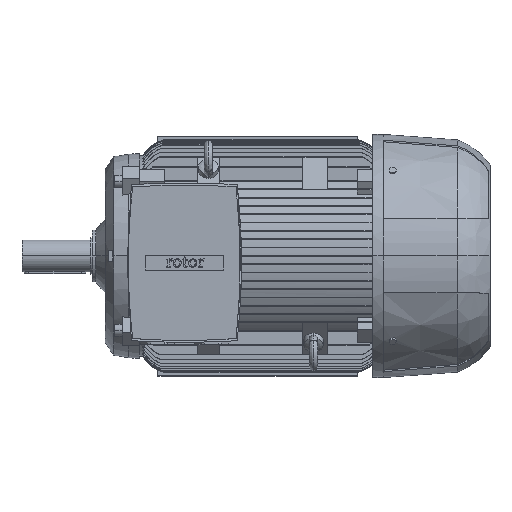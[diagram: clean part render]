
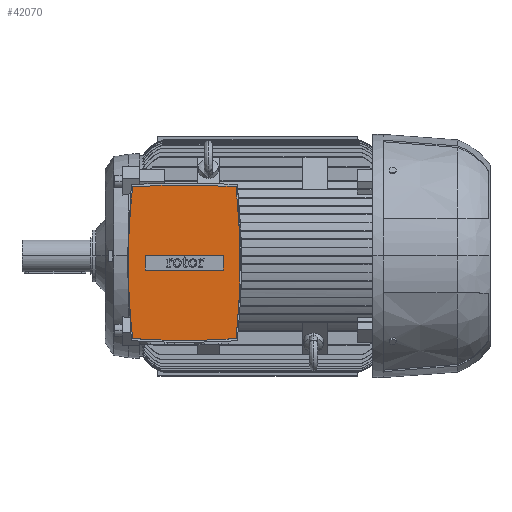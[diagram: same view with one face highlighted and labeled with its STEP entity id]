
A CAD part, top view. The second image highlights one B-rep face of the part: STEP entity #42070.
In plain terms, the highlighted planar face has unit normal (0, 0, 1).
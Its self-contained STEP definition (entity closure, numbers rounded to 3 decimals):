
#1840 = CIRCLE ( 'NONE', #37146, 1439.94 ) ;
#2120 = EDGE_CURVE ( 'NONE', #31482, #6332, #12870, .T. ) ;
#2373 = VECTOR ( 'NONE', #68207, 1000. ) ;
#3578 = VERTEX_POINT ( 'NONE', #37305 ) ;
#6332 = VERTEX_POINT ( 'NONE', #42314 ) ;
#7025 = DIRECTION ( 'NONE',  ( 1., 0., 0. ) ) ;
#7485 = CARTESIAN_POINT ( 'NONE',  ( 12., -14.5, 410. ) ) ;
#7734 = DIRECTION ( 'NONE',  ( 0., 1., 0. ) ) ;
#8825 = CARTESIAN_POINT ( 'NONE',  ( 92., 1266.44, 410. ) ) ;
#9993 = EDGE_CURVE ( 'NONE', #31554, #56876, #10102, .T. ) ;
#10102 = CIRCLE ( 'NONE', #39770, 1439.94 ) ;
#11552 = DIRECTION ( 'NONE',  ( 1., 0., 0. ) ) ;
#11804 = PLANE ( 'NONE',  #63254 ) ;
#12870 = LINE ( 'NONE', #44976, #57485 ) ;
#16106 = AXIS2_PLACEMENT_3D ( 'NONE', #62224, #67043, #73454 ) ;
#19714 = EDGE_CURVE ( 'NONE', #56876, #34600, #42030, .T. ) ;
#20462 = DIRECTION ( 'NONE',  ( -1., 0., 0. ) ) ;
#20941 = EDGE_LOOP ( 'NONE', ( #38026, #24244, #53863, #66125 ) ) ;
#21276 = CARTESIAN_POINT ( 'NONE',  ( -1197.1, -14.5, 410. ) ) ;
#24244 = ORIENTED_EDGE ( 'NONE', *, *, #2120, .T. ) ;
#25658 = ORIENTED_EDGE ( 'NONE', *, *, #19714, .F. ) ;
#26617 = EDGE_CURVE ( 'NONE', #34600, #37023, #42305, .T. ) ;
#27129 = CARTESIAN_POINT ( 'NONE',  ( 92., -29.5, 410. ) ) ;
#27153 = DIRECTION ( 'NONE',  ( 0., 0., -1. ) ) ;
#27425 = DIRECTION ( 'NONE',  ( 0., -1., 0. ) ) ;
#29360 = CARTESIAN_POINT ( 'NONE',  ( 197.904, -169.6, 410. ) ) ;
#29379 = AXIS2_PLACEMENT_3D ( 'NONE', #61352, #43719, #49117 ) ;
#29524 = CIRCLE ( 'NONE', #42823, 1403.6 ) ;
#30192 = DIRECTION ( 'NONE',  ( 0., 0., -1. ) ) ;
#31482 = VERTEX_POINT ( 'NONE', #68468 ) ;
#31554 = VERTEX_POINT ( 'NONE', #29360 ) ;
#34600 = VERTEX_POINT ( 'NONE', #61306 ) ;
#34856 = EDGE_CURVE ( 'NONE', #40173, #31482, #75566, .T. ) ;
#34908 = ORIENTED_EDGE ( 'NONE', *, *, #26617, .F. ) ;
#37023 = VERTEX_POINT ( 'NONE', #50944 ) ;
#37146 = AXIS2_PLACEMENT_3D ( 'NONE', #41663, #30192, #71057 ) ;
#37305 = CARTESIAN_POINT ( 'NONE',  ( 197.904, 140.6, 410. ) ) ;
#38026 = ORIENTED_EDGE ( 'NONE', *, *, #34856, .T. ) ;
#38165 = VERTEX_POINT ( 'NONE', #63732 ) ;
#38168 = CARTESIAN_POINT ( 'NONE',  ( 12., 0.5, 410. ) ) ;
#39770 = AXIS2_PLACEMENT_3D ( 'NONE', #8825, #73042, #20462 ) ;
#40173 = VERTEX_POINT ( 'NONE', #38168 ) ;
#41663 = CARTESIAN_POINT ( 'NONE',  ( 92., -1295.44, 410. ) ) ;
#42030 = CIRCLE ( 'NONE', #29379, 1403.6 ) ;
#42070 = ADVANCED_FACE ( 'NONE', ( #69752, #74321 ), #11804, .T. ) ;
#42305 = CIRCLE ( 'NONE', #16106, 1403.6 ) ;
#42314 = CARTESIAN_POINT ( 'NONE',  ( 172., -29.5, 410. ) ) ;
#42823 = AXIS2_PLACEMENT_3D ( 'NONE', #21276, #27153, #45482 ) ;
#43719 = DIRECTION ( 'NONE',  ( 0., 0., -1. ) ) ;
#44450 = EDGE_LOOP ( 'NONE', ( #47713, #34908, #25658, #53355, #69039 ) ) ;
#44976 = CARTESIAN_POINT ( 'NONE',  ( 172., -14.5, 410. ) ) ;
#45426 = VECTOR ( 'NONE', #7025, 1000. ) ;
#45482 = DIRECTION ( 'NONE',  ( -1., 0., 0. ) ) ;
#47713 = ORIENTED_EDGE ( 'NONE', *, *, #64106, .F. ) ;
#49117 = DIRECTION ( 'NONE',  ( -1., 0., 0. ) ) ;
#50944 = CARTESIAN_POINT ( 'NONE',  ( -13.904, 140.6, 410. ) ) ;
#51993 = DIRECTION ( 'NONE',  ( 0., 0., 1. ) ) ;
#53355 = ORIENTED_EDGE ( 'NONE', *, *, #9993, .F. ) ;
#53608 = VECTOR ( 'NONE', #7734, 1000. ) ;
#53863 = ORIENTED_EDGE ( 'NONE', *, *, #59007, .T. ) ;
#55645 = EDGE_CURVE ( 'NONE', #38165, #40173, #58194, .T. ) ;
#56876 = VERTEX_POINT ( 'NONE', #63324 ) ;
#57485 = VECTOR ( 'NONE', #27425, 1000. ) ;
#58194 = LINE ( 'NONE', #7485, #53608 ) ;
#59007 = EDGE_CURVE ( 'NONE', #6332, #38165, #69892, .T. ) ;
#59213 = CARTESIAN_POINT ( 'NONE',  ( 92., 0.5, 410. ) ) ;
#61306 = CARTESIAN_POINT ( 'NONE',  ( -22.5, -14.5, 410. ) ) ;
#61352 = CARTESIAN_POINT ( 'NONE',  ( 1381.1, -14.5, 410. ) ) ;
#62224 = CARTESIAN_POINT ( 'NONE',  ( 1381.1, -14.5, 410. ) ) ;
#62419 = EDGE_CURVE ( 'NONE', #3578, #31554, #29524, .T. ) ;
#63254 = AXIS2_PLACEMENT_3D ( 'NONE', #63787, #51993, #11552 ) ;
#63324 = CARTESIAN_POINT ( 'NONE',  ( -13.904, -169.6, 410. ) ) ;
#63732 = CARTESIAN_POINT ( 'NONE',  ( 12., -29.5, 410. ) ) ;
#63787 = CARTESIAN_POINT ( 'NONE',  ( 92., -14.5, 410. ) ) ;
#64106 = EDGE_CURVE ( 'NONE', #37023, #3578, #1840, .T. ) ;
#66125 = ORIENTED_EDGE ( 'NONE', *, *, #55645, .T. ) ;
#67043 = DIRECTION ( 'NONE',  ( 0., 0., -1. ) ) ;
#68207 = DIRECTION ( 'NONE',  ( -1., 0., 0. ) ) ;
#68468 = CARTESIAN_POINT ( 'NONE',  ( 172., 0.5, 410. ) ) ;
#69039 = ORIENTED_EDGE ( 'NONE', *, *, #62419, .F. ) ;
#69752 = FACE_OUTER_BOUND ( 'NONE', #44450, .T. ) ;
#69892 = LINE ( 'NONE', #27129, #2373 ) ;
#71057 = DIRECTION ( 'NONE',  ( -1., 0., 0. ) ) ;
#73042 = DIRECTION ( 'NONE',  ( 0., 0., -1. ) ) ;
#73454 = DIRECTION ( 'NONE',  ( -1., 0., 0. ) ) ;
#74321 = FACE_BOUND ( 'NONE', #20941, .T. ) ;
#75566 = LINE ( 'NONE', #59213, #45426 ) ;
